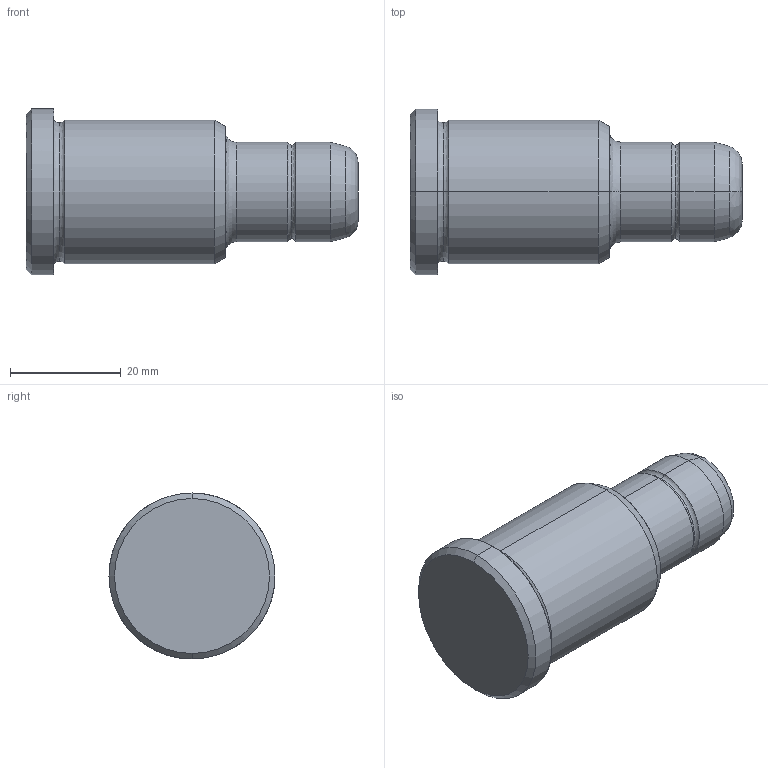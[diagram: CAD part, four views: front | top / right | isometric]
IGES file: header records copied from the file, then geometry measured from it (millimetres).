
Start section: START RECORD GO HERE.
Global section: file name: 351-18X36X60.igs; native system: DASSAULT SYSTEMES CATIA V5 R20 - www.3ds.com; preprocessor: CATIA Version 5 Release 20 ; author: Utente; organization: NB04-ASUS; date: 20210819.144504; units: millimetre
Bounding box: 60 x 30 x 30 mm (x, y, z)
Surface area: 5522.9 mm2 (no closed solid volume)
Topology: 0 solids, 0 shells, 30 faces, 172 edges, 172 vertices
Faces by surface type: revolution 26, plane 4
